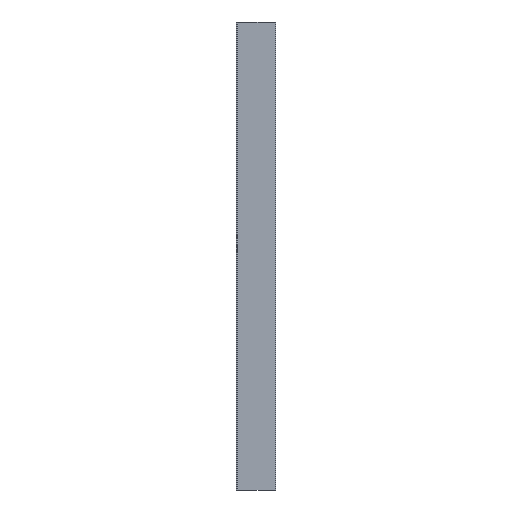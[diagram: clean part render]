
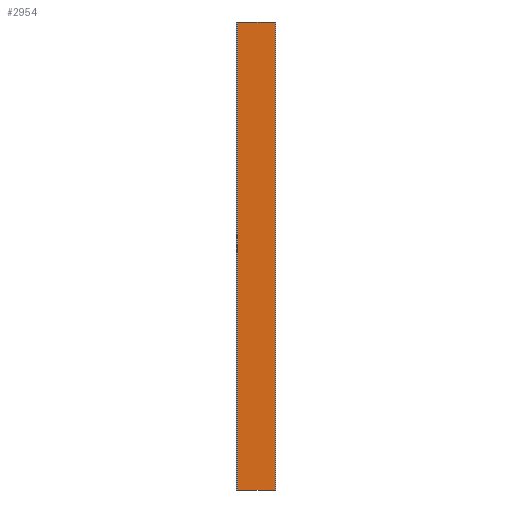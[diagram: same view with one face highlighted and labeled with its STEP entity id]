
A CAD part, left-side view. The second image highlights one B-rep face of the part: STEP entity #2954.
In plain terms, the highlighted planar face has unit normal (-1, 0, 0).
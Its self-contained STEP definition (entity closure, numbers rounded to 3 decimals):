
#183=PLANE('',#3213);
#598=ORIENTED_EDGE('',*,*,#1480,.T.);
#599=ORIENTED_EDGE('',*,*,#1481,.F.);
#600=ORIENTED_EDGE('',*,*,#1455,.F.);
#601=ORIENTED_EDGE('',*,*,#1479,.T.);
#1455=EDGE_CURVE('',#1876,#1877,#2101,.T.);
#1479=EDGE_CURVE('',#1876,#1898,#2111,.T.);
#1480=EDGE_CURVE('',#1898,#1899,#2112,.T.);
#1481=EDGE_CURVE('',#1877,#1899,#2113,.T.);
#1876=VERTEX_POINT('',#4905);
#1877=VERTEX_POINT('',#4907);
#1898=VERTEX_POINT('',#4953);
#1899=VERTEX_POINT('',#4957);
#2101=LINE('',#4906,#2339);
#2111=LINE('',#4954,#2349);
#2112=LINE('',#4956,#2350);
#2113=LINE('',#4958,#2351);
#2339=VECTOR('',#3716,1000.);
#2349=VECTOR('',#3758,1000.);
#2350=VECTOR('',#3761,1000.);
#2351=VECTOR('',#3762,1000.);
#2542=EDGE_LOOP('',(#598,#599,#600,#601));
#2698=FACE_BOUND('',#2542,.T.);
#2954=ADVANCED_FACE('',(#2698),#183,.F.);
#3213=AXIS2_PLACEMENT_3D('',#4955,#3759,#3760);
#3716=DIRECTION('',(0.,-1.,0.));
#3758=DIRECTION('',(0.,0.,-1.));
#3759=DIRECTION('',(1.,0.,0.));
#3760=DIRECTION('',(0.,1.,0.));
#3761=DIRECTION('',(0.,-1.,0.));
#3762=DIRECTION('',(0.,0.,-1.));
#4905=CARTESIAN_POINT('',(-14.,39.3,288.5));
#4906=CARTESIAN_POINT('',(-14.,-7.5,288.5));
#4907=CARTESIAN_POINT('',(-14.,-7.5,288.5));
#4953=CARTESIAN_POINT('',(-14.,39.3,-288.5));
#4954=CARTESIAN_POINT('',(-14.,39.3,288.5));
#4955=CARTESIAN_POINT('',(-14.,-7.5,288.5));
#4956=CARTESIAN_POINT('',(-14.,-7.5,-288.5));
#4957=CARTESIAN_POINT('',(-14.,-7.5,-288.5));
#4958=CARTESIAN_POINT('',(-14.,-7.5,288.5));
